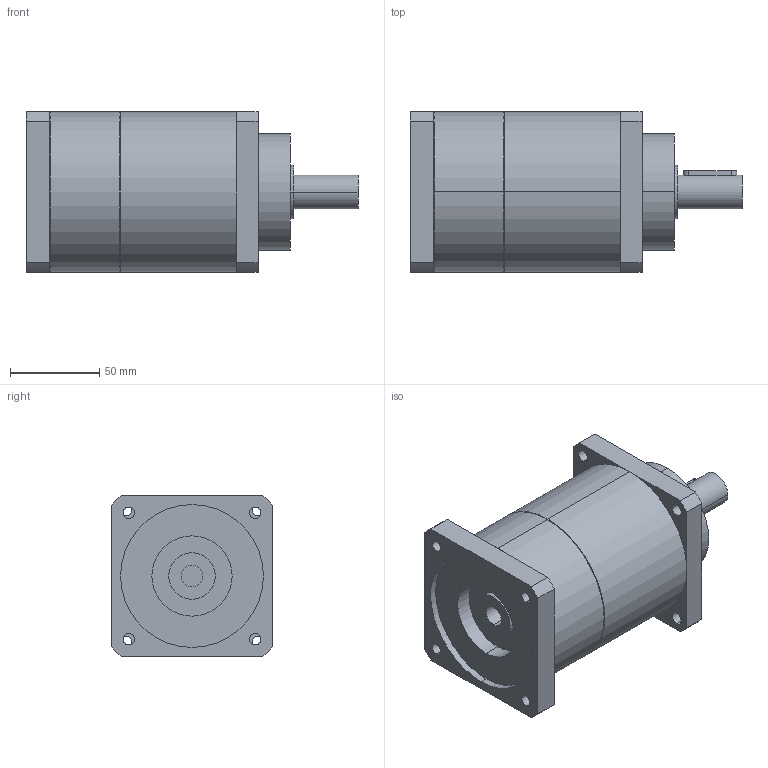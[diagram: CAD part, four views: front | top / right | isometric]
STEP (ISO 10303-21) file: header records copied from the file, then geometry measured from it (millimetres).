
FILE_DESCRIPTION(('CoCreate Modeling STEP Export'),'2;1');
FILE_NAME('GPT90_ig-9-12-16-20-25-28-35-40-50-70-100_19_B5T_12_P06.stp','2015-02-04T11:28:15',(''),(''),'CoCreate Modeling STEP processor for AP214 (Solid Model)','CoCreate Modeling 16.00C 25-Feb-2009 (C) Parametric Technology GmbH','');
FILE_SCHEMA(('AUTOMOTIVE_DESIGN { 1 0 10303 214 1 1 1 1 }'));
Length unit declared in the file: millimetre
Products named in the file (2): GPT90_ig-9-12-16-20-25-28-35-40-50-70-100_19_B5T_12_P06
Assembly tree (1 placements, depth 2):
  GPT90_ig-9-12-16-20-25-28-35-40-50-70-100_19_B5T_12_P06
    GPT90_ig-9-12-16-20-25-28-35-40-50-70-100_19_B5T_12_P06
Bounding box: 186 x 90 x 90 mm (x, y, z)
Volume: 900054.5 mm3; surface area: 70126.4 mm2
Topology: 1 solids, 1 shells, 77 faces, 207 edges, 142 vertices
Faces by surface type: cylinder 46, plane 27, cone 4
Entity records: 2601 total; most frequent: CARTESIAN_POINT 743, ORIENTED_EDGE 414, DIRECTION 324, EDGE_CURVE 207, VERTEX_POINT 142, AXIS2_PLACEMENT_3D 120, EDGE_LOOP 103, VECTOR 84
